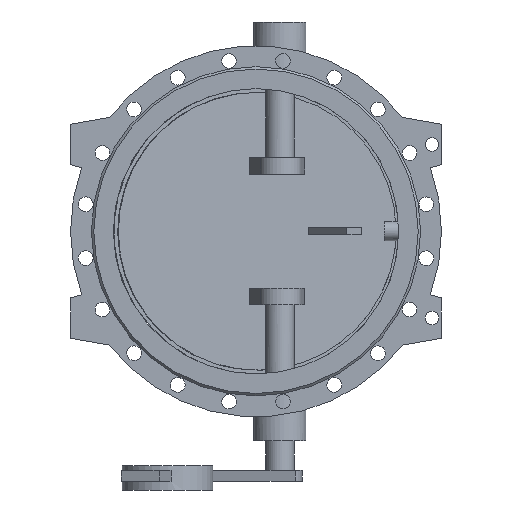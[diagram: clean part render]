
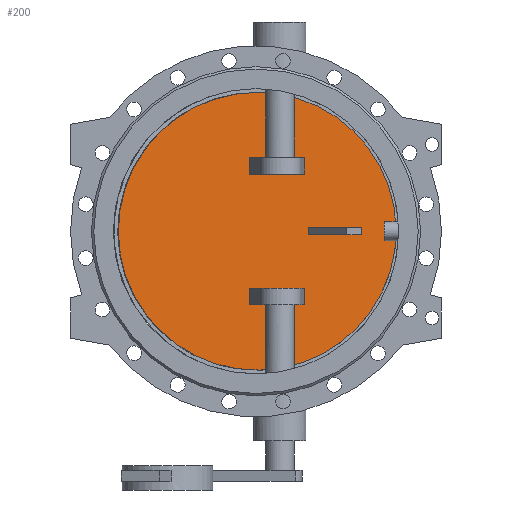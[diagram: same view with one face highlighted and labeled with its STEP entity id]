
A CAD part, front view. The second image highlights one B-rep face of the part: STEP entity #200.
In plain terms, the highlighted planar face has unit normal (0.131, -0.991, 0).
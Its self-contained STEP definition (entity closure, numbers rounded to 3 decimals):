
#200=ADVANCED_FACE('',(#1439,#1441,#1443,#1445),#1447,.T.);
#1439=FACE_BOUND('',#1440,.T.);
#1440=EDGE_LOOP('',(#2738));
#1441=FACE_BOUND('',#1442,.T.);
#1442=EDGE_LOOP('',(#2739,#2740,#2741,#2742));
#1443=FACE_BOUND('',#1444,.T.);
#1444=EDGE_LOOP('',(#2743,#2744,#2745,#2746));
#1445=FACE_BOUND('',#1446,.T.);
#1446=EDGE_LOOP('',(#2747,#2748,#2749,#2750));
#1447=PLANE('',#1448);
#1448=AXIS2_PLACEMENT_3D('',#1449,#1450,#1451);
#1449=CARTESIAN_POINT('',(-1.272,9.66,0.));
#1450=DIRECTION('',(0.131,-0.991,0.));
#1451=DIRECTION('',(0.,0.,-1.));
#2738=ORIENTED_EDGE('',*,*,#3289,.T.);
#2739=ORIENTED_EDGE('',*,*,#3293,.F.);
#2740=ORIENTED_EDGE('',*,*,#3294,.F.);
#2741=ORIENTED_EDGE('',*,*,#3295,.F.);
#2742=ORIENTED_EDGE('',*,*,#3296,.F.);
#2743=ORIENTED_EDGE('',*,*,#3297,.F.);
#2744=ORIENTED_EDGE('',*,*,#3298,.F.);
#2745=ORIENTED_EDGE('',*,*,#3299,.F.);
#2746=ORIENTED_EDGE('',*,*,#3300,.F.);
#2747=ORIENTED_EDGE('',*,*,#3301,.F.);
#2748=ORIENTED_EDGE('',*,*,#3302,.F.);
#2749=ORIENTED_EDGE('',*,*,#3303,.F.);
#2750=ORIENTED_EDGE('',*,*,#3304,.F.);
#3289=EDGE_CURVE('',#3598,#3598,#3599,.T.);
#3293=EDGE_CURVE('',#3606,#3607,#3608,.T.);
#3294=EDGE_CURVE('',#3609,#3606,#3610,.F.);
#3295=EDGE_CURVE('',#3611,#3609,#3612,.T.);
#3296=EDGE_CURVE('',#3607,#3611,#3613,.T.);
#3297=EDGE_CURVE('',#3614,#3615,#3616,.F.);
#3298=EDGE_CURVE('',#3617,#3614,#3618,.T.);
#3299=EDGE_CURVE('',#3619,#3617,#3620,.T.);
#3300=EDGE_CURVE('',#3615,#3619,#3621,.T.);
#3301=EDGE_CURVE('',#3622,#3623,#3624,.T.);
#3302=EDGE_CURVE('',#3625,#3622,#3626,.F.);
#3303=EDGE_CURVE('',#3627,#3625,#3628,.F.);
#3304=EDGE_CURVE('',#3623,#3627,#3629,.F.);
#3598=VERTEX_POINT('',#4595);
#3599=B_SPLINE_CURVE_WITH_KNOTS('',3,
(#4596,#4597,#4598,#4599,#4600,#4601,#4602,#4603,#4604,#4605,#4606,#4607,#4608,#4609,
#4610,#4611,#4612,#4613,#4614,#4615,#4616,#4617,#4618,#4619,#4620,#4621,#4622,#4623,
#4624,#4625,#4626,#4627,#4628,#4629,#4630,#4631,#4632,#4633,#4634,#4635,#4636,#4637,
#4638,#4639,#4640,#4641,#4642,#4643,#4644,#4645,#4646),
.UNSPECIFIED.,.T.,.F.,
(4,1,1,1,1,1,1,1,1,1,1,1,1,1,1,1,1,1,1,1,1,1,1,1,1,1,1,1,1,1,1,1,1,1,1,1,1,1,1,1,
1,1,1,1,1,1,1,1,4),
(0.,0.021,0.042,0.063,0.084,0.105,
0.126,0.147,0.168,0.189,0.211,
0.232,0.253,0.274,0.295,0.316,
0.337,0.358,0.379,0.4,0.421,
0.442,0.463,0.484,0.505,0.526,
0.548,0.569,0.59,0.611,0.632,
0.653,0.674,0.695,0.716,0.737,
0.758,0.779,0.8,0.821,0.842,
0.864,0.885,0.906,0.927,0.948,
0.969,0.986,1.),
.UNSPECIFIED.);
#3606=VERTEX_POINT('',#4709);
#3607=VERTEX_POINT('',#4710);
#3608=LINE('',#4711,#4712);
#3609=VERTEX_POINT('',#4714);
#3610=LINE('',#4715,#4716);
#3611=VERTEX_POINT('',#4718);
#3612=LINE('',#4719,#4720);
#3613=LINE('',#4722,#4723);
#3614=VERTEX_POINT('',#4725);
#3615=VERTEX_POINT('',#4726);
#3616=LINE('',#4727,#4728);
#3617=VERTEX_POINT('',#4730);
#3618=LINE('',#4731,#4732);
#3619=VERTEX_POINT('',#4734);
#3620=LINE('',#4735,#4736);
#3621=LINE('',#4738,#4739);
#3622=VERTEX_POINT('',#4741);
#3623=VERTEX_POINT('',#4742);
#3624=LINE('',#4743,#4744);
#3625=VERTEX_POINT('',#4746);
#3626=LINE('',#4747,#4748);
#3627=VERTEX_POINT('',#4750);
#3628=LINE('',#4751,#4752);
#3629=LINE('',#4754,#4755);
#4595=CARTESIAN_POINT('',(2.611,10.171,292.));
#4596=CARTESIAN_POINT('',(2.611,10.171,292.));
#4597=CARTESIAN_POINT('',(-10.219,8.482,292.));
#4598=CARTESIAN_POINT('',(-35.91,5.1,290.305));
#4599=CARTESIAN_POINT('',(-73.825,0.108,282.707));
#4600=CARTESIAN_POINT('',(-110.459,-4.715,270.157));
#4601=CARTESIAN_POINT('',(-145.138,-9.28,252.871));
#4602=CARTESIAN_POINT('',(-177.225,-13.505,231.166));
#4603=CARTESIAN_POINT('',(-206.166,-17.315,205.416));
#4604=CARTESIAN_POINT('',(-231.455,-20.644,176.075));
#4605=CARTESIAN_POINT('',(-252.648,-23.434,143.655));
#4606=CARTESIAN_POINT('',(-269.377,-25.637,108.723));
#4607=CARTESIAN_POINT('',(-281.348,-27.213,71.891));
#4608=CARTESIAN_POINT('',(-288.354,-28.135,33.802));
#4609=CARTESIAN_POINT('',(-290.271,-28.387,-4.878));
#4610=CARTESIAN_POINT('',(-287.066,-27.966,-43.472));
#4611=CARTESIAN_POINT('',(-278.796,-26.877,-81.306));
#4612=CARTESIAN_POINT('',(-265.604,-25.14,-117.719));
#4613=CARTESIAN_POINT('',(-247.722,-22.786,-152.073));
#4614=CARTESIAN_POINT('',(-225.461,-19.855,-183.769));
#4615=CARTESIAN_POINT('',(-199.21,-16.399,-212.252));
#4616=CARTESIAN_POINT('',(-169.427,-12.478,-237.024));
#4617=CARTESIAN_POINT('',(-136.633,-8.161,-257.651));
#4618=CARTESIAN_POINT('',(-101.401,-3.522,-273.77));
#4619=CARTESIAN_POINT('',(-64.347,1.356,-285.1));
#4620=CARTESIAN_POINT('',(-26.121,6.389,-291.442));
#4621=CARTESIAN_POINT('',(12.609,11.487,-292.683));
#4622=CARTESIAN_POINT('',(51.163,16.563,-288.803));
#4623=CARTESIAN_POINT('',(88.867,21.527,-279.869));
#4624=CARTESIAN_POINT('',(125.06,26.292,-266.039));
#4625=CARTESIAN_POINT('',(159.11,30.775,-247.554));
#4626=CARTESIAN_POINT('',(190.419,34.897,-224.739));
#4627=CARTESIAN_POINT('',(218.442,38.586,-197.994));
#4628=CARTESIAN_POINT('',(242.689,41.778,-167.787));
#4629=CARTESIAN_POINT('',(262.736,44.417,-134.647));
#4630=CARTESIAN_POINT('',(278.233,46.457,-99.152));
#4631=CARTESIAN_POINT('',(288.909,47.863,-61.924));
#4632=CARTESIAN_POINT('',(294.579,48.609,-23.614));
#4633=CARTESIAN_POINT('',(295.143,48.684,15.109));
#4634=CARTESIAN_POINT('',(290.591,48.084,53.568));
#4635=CARTESIAN_POINT('',(281.003,46.822,91.09));
#4636=CARTESIAN_POINT('',(266.546,44.919,127.019));
#4637=CARTESIAN_POINT('',(247.473,42.408,160.728));
#4638=CARTESIAN_POINT('',(224.118,39.333,191.627));
#4639=CARTESIAN_POINT('',(196.885,35.748,219.177));
#4640=CARTESIAN_POINT('',(166.261,31.716,242.887));
#4641=CARTESIAN_POINT('',(132.817,27.313,262.327));
#4642=CARTESIAN_POINT('',(97.037,22.603,277.222));
#4643=CARTESIAN_POINT('',(61.749,17.957,286.686));
#4644=CARTESIAN_POINT('',(30.023,13.78,291.181));
#4645=CARTESIAN_POINT('',(10.989,11.274,292.));
#4646=CARTESIAN_POINT('',(2.611,10.171,292.));
#4709=CARTESIAN_POINT('',(204.187,36.709,-7.5));
#4710=CARTESIAN_POINT('',(204.187,36.709,7.5));
#4711=CARTESIAN_POINT('',(204.187,36.709,-7.5));
#4712=VECTOR('',#4713,1.);
#4713=DIRECTION('',(0.,0.,1.));
#4714=CARTESIAN_POINT('',(110.,24.309,-7.5));
#4715=CARTESIAN_POINT('',(204.187,36.709,-7.5));
#4716=VECTOR('',#4717,1.);
#4717=DIRECTION('',(-0.991,-0.131,0.));
#4718=CARTESIAN_POINT('',(110.,24.309,7.5));
#4719=CARTESIAN_POINT('',(110.,24.309,7.5));
#4720=VECTOR('',#4721,1.);
#4721=DIRECTION('',(0.,0.,-1.));
#4722=CARTESIAN_POINT('',(204.187,36.709,7.5));
#4723=VECTOR('',#4724,1.);
#4724=DIRECTION('',(-0.991,-0.131,0.));
#4725=CARTESIAN_POINT('',(-14.418,7.929,-155.));
#4726=CARTESIAN_POINT('',(102.407,23.31,-155.));
#4727=CARTESIAN_POINT('',(102.407,23.31,-155.));
#4728=VECTOR('',#4729,1.);
#4729=DIRECTION('',(-0.991,-0.131,0.));
#4730=CARTESIAN_POINT('',(-14.418,7.929,-120.));
#4731=CARTESIAN_POINT('',(-14.418,7.929,-120.));
#4732=VECTOR('',#4733,1.);
#4733=DIRECTION('',(0.,0.,-1.));
#4734=CARTESIAN_POINT('',(102.407,23.31,-120.));
#4735=CARTESIAN_POINT('',(102.407,23.31,-120.));
#4736=VECTOR('',#4737,1.);
#4737=DIRECTION('',(-0.991,-0.131,0.));
#4738=CARTESIAN_POINT('',(102.407,23.31,-155.));
#4739=VECTOR('',#4740,1.);
#4740=DIRECTION('',(0.,0.,1.));
#4741=CARTESIAN_POINT('',(102.407,23.31,155.));
#4742=CARTESIAN_POINT('',(-14.418,7.929,155.));
#4743=CARTESIAN_POINT('',(102.407,23.31,155.));
#4744=VECTOR('',#4745,1.);
#4745=DIRECTION('',(-0.991,-0.131,0.));
#4746=CARTESIAN_POINT('',(102.407,23.31,120.));
#4747=CARTESIAN_POINT('',(102.407,23.31,155.));
#4748=VECTOR('',#4749,1.);
#4749=DIRECTION('',(0.,0.,-1.));
#4750=CARTESIAN_POINT('',(-14.418,7.929,120.));
#4751=CARTESIAN_POINT('',(102.407,23.31,120.));
#4752=VECTOR('',#4753,1.);
#4753=DIRECTION('',(-0.991,-0.131,0.));
#4754=CARTESIAN_POINT('',(-14.418,7.929,120.));
#4755=VECTOR('',#4756,1.);
#4756=DIRECTION('',(0.,0.,1.));
